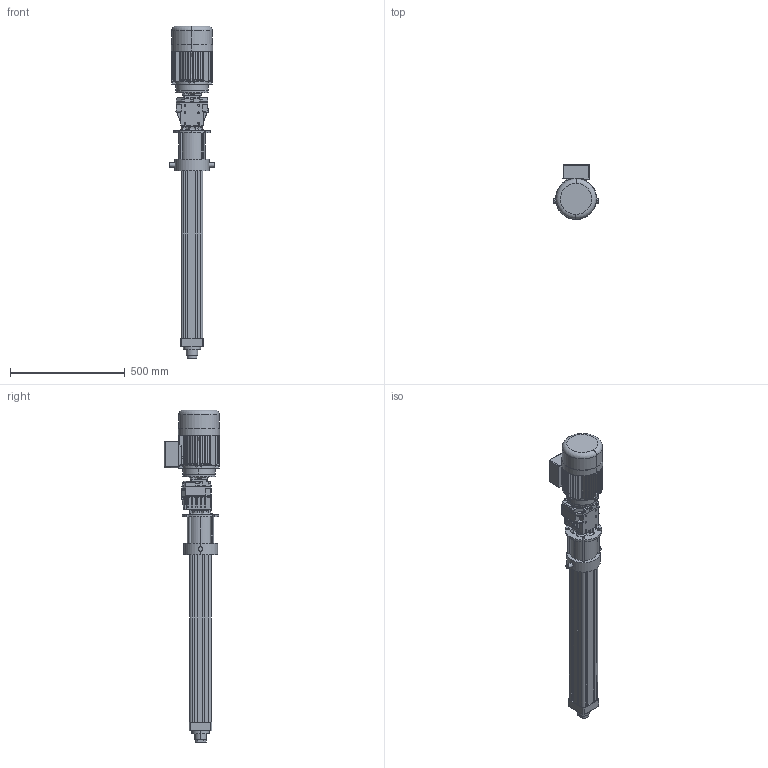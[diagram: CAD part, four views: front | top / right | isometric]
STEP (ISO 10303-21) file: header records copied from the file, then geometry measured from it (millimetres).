
FILE_DESCRIPTION (( 'STEP AP214' ), '1' );
FILE_NAME ('Ass MR80 TR C600.STEP', '2016-12-07T15:14:30', ( 'Hubert' ), ( '' ), 'SwSTEP 2.0', 'SolidWorks 2014', '' );
FILE_SCHEMA (( 'AUTOMOTIVE_DESIGN' ));
Length unit declared in the file: millimetre
Products named in the file (10): Ass MR80 TR C600; PAAV 80 D; Profilé MRRV80 TR C600; Tube MR 80 TR C600; Ass 402A_F MOT 90; _AT_90_LB_4_B14__230-400-50_AC.3d1; _P_402A_-F_4,37_V_3_-T___B3.3d; Vis MRRV80 TR C600; PAAR 80 B160; PAAR 80B160
Assembly tree (9 placements, depth 3):
  Ass MR80 TR C600
    PAAR 80 B160
      PAAR 80B160
    Vis MRRV80 TR C600
    Ass 402A_F MOT 90
      _P_402A_-F_4,37_V_3_-T___B3.3d
      _AT_90_LB_4_B14__230-400-50_AC.3d1
    Tube MR 80 TR C600
    Profilé MRRV80 TR C600
    PAAV 80 D
Bounding box: 198 x 240.51 x 1444.8 mm (x, y, z)
Volume: 10933318.7 mm3; surface area: 1740533.6 mm2
Topology: 6 solids, 30 shells, 1724 faces, 4723 edges, 3099 vertices
Faces by surface type: plane 851, cylinder 475, cone 250, bspline 146, torus 2
Entity records: 98826 total; most frequent: CARTESIAN_POINT 40362, ORIENTED_EDGE 9332, DIRECTION 6885, EDGE_CURVE 4667, VERTEX_POINT 3099, VECTOR 2429, LINE 2429, AXIS2_PLACEMENT_3D 2228
